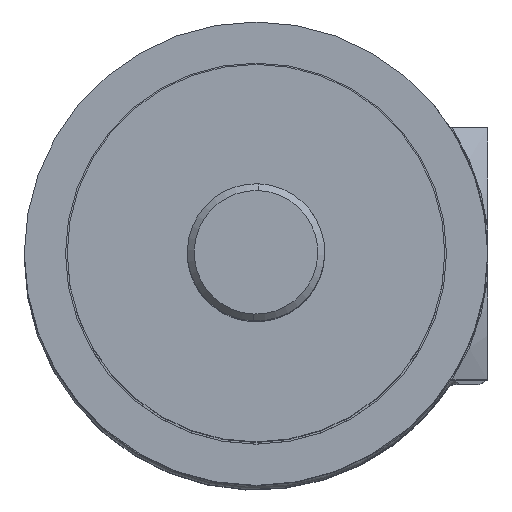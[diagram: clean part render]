
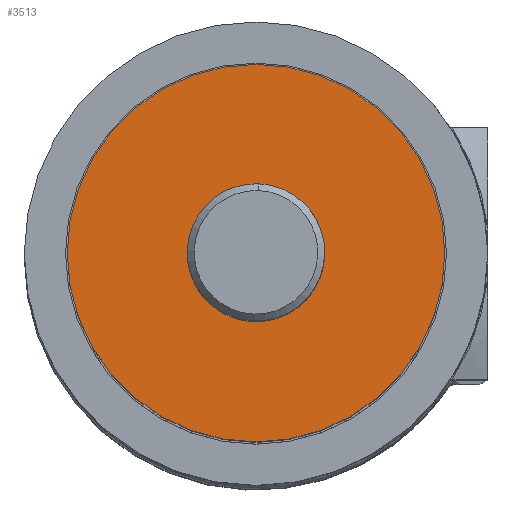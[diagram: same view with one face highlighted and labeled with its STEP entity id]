
A CAD part, top view. The second image highlights one B-rep face of the part: STEP entity #3513.
In plain terms, the highlighted planar face has unit normal (0, 0, 1) as drawn and (0, 0, -1) by its records, which use the part's own axes.
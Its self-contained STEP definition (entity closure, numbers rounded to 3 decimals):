
#303 = AXIS2_PLACEMENT_3D ( 'NONE', #3071, #6795, #3615 ) ;
#923 = EDGE_CURVE ( 'NONE', #1155, #5795, #4228, .T. ) ;
#981 = EDGE_LOOP ( 'NONE', ( #1883, #5613 ) ) ;
#1095 = DIRECTION ( 'NONE',  ( 1., 0., 0. ) ) ;
#1107 = EDGE_CURVE ( 'NONE', #1875, #5890, #1601, .T. ) ;
#1155 = VERTEX_POINT ( 'NONE', #4173 ) ;
#1296 = CARTESIAN_POINT ( 'NONE',  ( 0., 0., 0. ) ) ;
#1575 = CIRCLE ( 'NONE', #5159, 11. ) ;
#1601 = CIRCLE ( 'NONE', #303, 4. ) ;
#1714 = CARTESIAN_POINT ( 'NONE',  ( -4., 0., 0. ) ) ;
#1845 = DIRECTION ( 'NONE',  ( 1., 0., 0. ) ) ;
#1875 = VERTEX_POINT ( 'NONE', #2621 ) ;
#1883 = ORIENTED_EDGE ( 'NONE', *, *, #5085, .F. ) ;
#1909 = AXIS2_PLACEMENT_3D ( 'NONE', #1296, #5078, #1845 ) ;
#1952 = CARTESIAN_POINT ( 'NONE',  ( 0., 0., 0. ) ) ;
#2488 = DIRECTION ( 'NONE',  ( 1., 0., 0. ) ) ;
#2500 = AXIS2_PLACEMENT_3D ( 'NONE', #2590, #6349, #3149 ) ;
#2590 = CARTESIAN_POINT ( 'NONE',  ( 0., 0., 0. ) ) ;
#2621 = CARTESIAN_POINT ( 'NONE',  ( 4., 0., 0. ) ) ;
#2763 = ORIENTED_EDGE ( 'NONE', *, *, #1107, .F. ) ;
#2838 = EDGE_LOOP ( 'NONE', ( #4507, #2763 ) ) ;
#3071 = CARTESIAN_POINT ( 'NONE',  ( 0., 0., 0. ) ) ;
#3149 = DIRECTION ( 'NONE',  ( -1., 0., 0. ) ) ;
#3513 = ADVANCED_FACE ( 'NONE', ( #6297, #3629 ), #6991, .F. ) ;
#3615 = DIRECTION ( 'NONE',  ( -1., 0., 0. ) ) ;
#3629 = FACE_BOUND ( 'NONE', #2838, .T. ) ;
#3804 = CARTESIAN_POINT ( 'NONE',  ( 0., 0., 0. ) ) ;
#4173 = CARTESIAN_POINT ( 'NONE',  ( 11., 0., 0. ) ) ;
#4228 = CIRCLE ( 'NONE', #1909, 11. ) ;
#4342 = DIRECTION ( 'NONE',  ( 0., 0., 1. ) ) ;
#4507 = ORIENTED_EDGE ( 'NONE', *, *, #6719, .F. ) ;
#4900 = CARTESIAN_POINT ( 'NONE',  ( -11., 0., 0. ) ) ;
#5078 = DIRECTION ( 'NONE',  ( 0., 0., 1. ) ) ;
#5085 = EDGE_CURVE ( 'NONE', #5795, #1155, #1575, .T. ) ;
#5110 = CIRCLE ( 'NONE', #2500, 4. ) ;
#5159 = AXIS2_PLACEMENT_3D ( 'NONE', #1952, #5714, #2488 ) ;
#5613 = ORIENTED_EDGE ( 'NONE', *, *, #923, .F. ) ;
#5714 = DIRECTION ( 'NONE',  ( 0., 0., 1. ) ) ;
#5795 = VERTEX_POINT ( 'NONE', #4900 ) ;
#5890 = VERTEX_POINT ( 'NONE', #1714 ) ;
#6297 = FACE_OUTER_BOUND ( 'NONE', #981, .T. ) ;
#6349 = DIRECTION ( 'NONE',  ( 0., 0., -1. ) ) ;
#6466 = AXIS2_PLACEMENT_3D ( 'NONE', #3804, #4342, #1095 ) ;
#6719 = EDGE_CURVE ( 'NONE', #5890, #1875, #5110, .T. ) ;
#6795 = DIRECTION ( 'NONE',  ( 0., 0., -1. ) ) ;
#6991 = PLANE ( 'NONE',  #6466 ) ;
